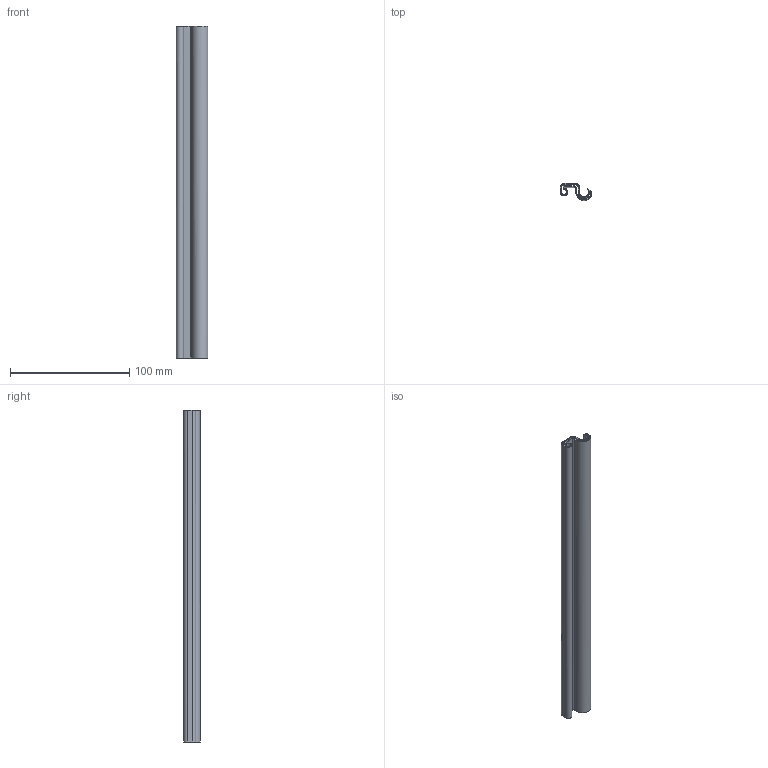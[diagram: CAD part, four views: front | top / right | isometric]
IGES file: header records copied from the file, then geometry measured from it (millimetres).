
Global section: file name: roleta_280x50mm_mainpart; native system: Autodesk Inventor 2015; preprocessor: unknown; author: uidn2323; date: 20160121.103708; units: millimetre
Bounding box: 26.11 x 13.85 x 278 mm (x, y, z)
Volume: 20621.5 mm3; surface area: 51904.2 mm2
Topology: 1 solids, 1 shells, 30 faces, 84 edges, 56 vertices
Faces by surface type: bspline 30
